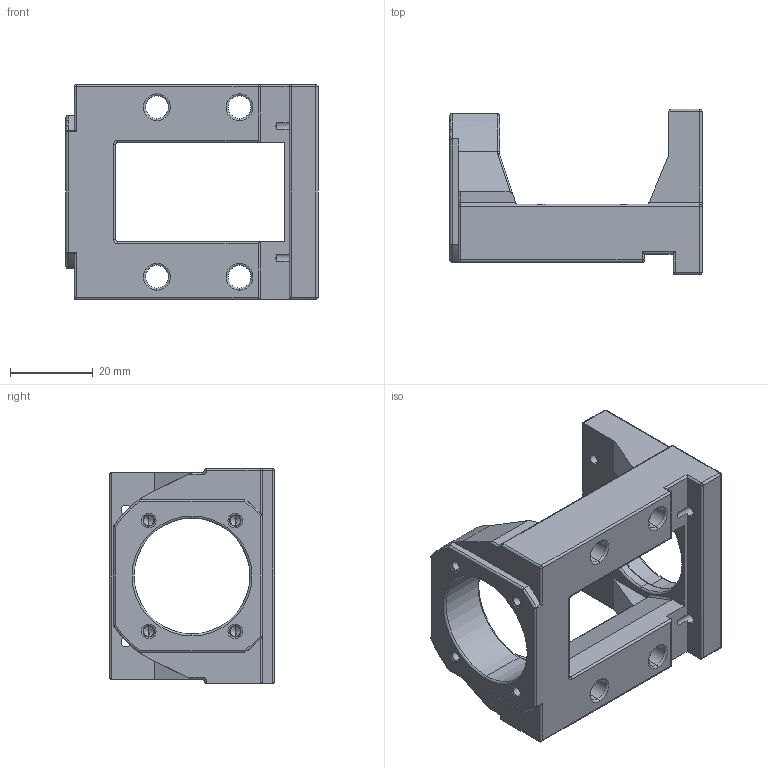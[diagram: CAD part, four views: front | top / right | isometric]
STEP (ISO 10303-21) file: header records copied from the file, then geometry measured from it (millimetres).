
FILE_DESCRIPTION (( 'STEP AP203' ), '1' );
FILE_NAME ('MBA08-A傳動座.STEP', '2017-12-28T06:00:04', ( '' ), ( '' ), 'SwSTEP 2.0', 'SolidWorks 2017', '' );
FILE_SCHEMA (( 'CONFIG_CONTROL_DESIGN' ));
Length unit declared in the file: millimetre
Products named in the file (1): MBA08-A傳動座
Bounding box: 61 x 40 x 52 mm (x, y, z)
Volume: 35683.8 mm3; surface area: 14798.5 mm2
Topology: 1 solids, 1 shells, 272 faces, 664 edges, 369 vertices
Faces by surface type: cylinder 113, torus 58, plane 47, cone 34, sphere 18, bspline 2
Entity records: 7882 total; most frequent: CARTESIAN_POINT 1544, DIRECTION 1411, ORIENTED_EDGE 1276, EDGE_CURVE 638, AXIS2_PLACEMENT_3D 572, VERTEX_POINT 369, CIRCLE 301, EDGE_LOOP 295
